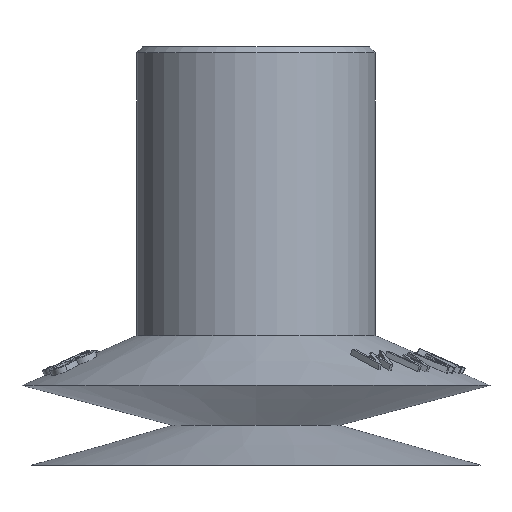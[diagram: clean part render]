
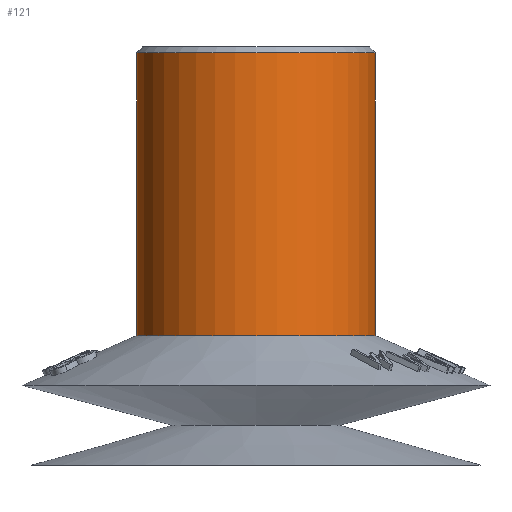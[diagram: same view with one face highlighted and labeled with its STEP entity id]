
A CAD part, front view. The second image highlights one B-rep face of the part: STEP entity #121.
In plain terms, the highlighted cylindrical face has radius 6 mm (diameter 12 mm), a full revolution.
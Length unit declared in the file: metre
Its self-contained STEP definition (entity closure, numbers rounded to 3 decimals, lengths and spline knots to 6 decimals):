
#121 = ADVANCED_FACE( '', ( #391, #392 ), #393, .T. );
#391 = FACE_OUTER_BOUND( '', #2141, .T. );
#392 = FACE_OUTER_BOUND( '', #2142, .T. );
#393 = CYLINDRICAL_SURFACE( '', #2143, 0.006 );
#2141 = EDGE_LOOP( '', ( #5118 ) );
#2142 = EDGE_LOOP( '', ( #5119 ) );
#2143 = AXIS2_PLACEMENT_3D( '', #5120, #5121, #5122 );
#5118 = ORIENTED_EDGE( '', *, *, #5956, .T. );
#5119 = ORIENTED_EDGE( '', *, *, #6165, .T. );
#5120 = CARTESIAN_POINT( '', ( 0., 0., 0.011498 ) );
#5121 = DIRECTION( '', ( 0., 0., -1. ) );
#5122 = DIRECTION( '', ( 1., 0., 0. ) );
#5956 = EDGE_CURVE( '', #6476, #6476, #6477, .F. );
#6165 = EDGE_CURVE( '', #6862, #6862, #6863, .T. );
#6476 = VERTEX_POINT( '', #7434 );
#6477 = CIRCLE( '', #7435, 0.006 );
#6862 = VERTEX_POINT( '', #9410 );
#6863 = CIRCLE( '', #9411, 0.006 );
#7434 = CARTESIAN_POINT( '', ( 0.006, 0., 0.011198 ) );
#7435 = AXIS2_PLACEMENT_3D( '', #10779, #10780, #10781 );
#9410 = CARTESIAN_POINT( '', ( 0.006, 0., -0.003002 ) );
#9411 = AXIS2_PLACEMENT_3D( '', #10809, #10810, #10811 );
#10779 = CARTESIAN_POINT( '', ( 0., 0., 0.011198 ) );
#10780 = DIRECTION( '', ( 0., 0., 1. ) );
#10781 = DIRECTION( '', ( 1., 0., 0. ) );
#10809 = CARTESIAN_POINT( '', ( 0., 0., -0.003002 ) );
#10810 = DIRECTION( '', ( 0., 0., 1. ) );
#10811 = DIRECTION( '', ( 1., 0., 0. ) );
